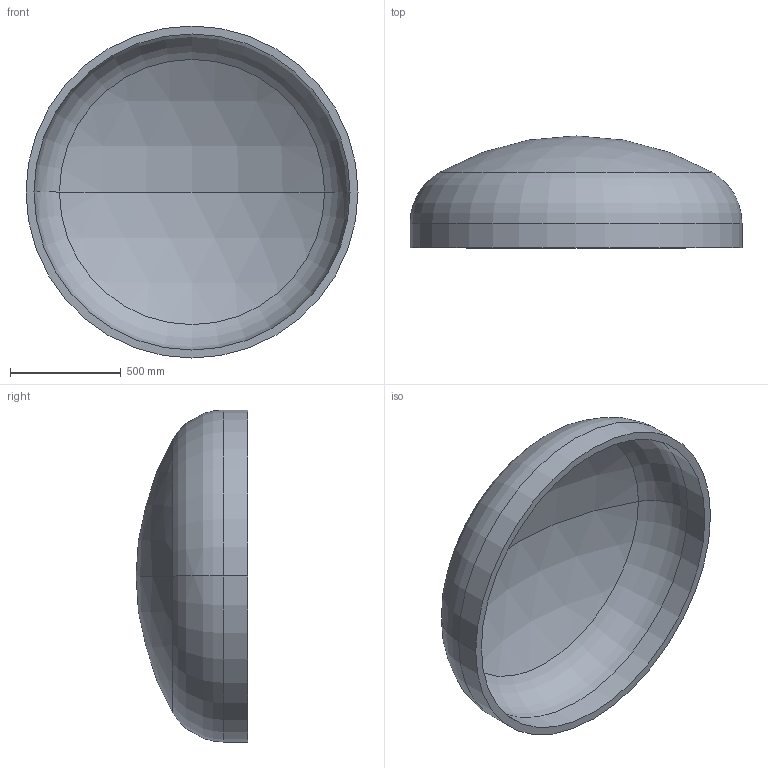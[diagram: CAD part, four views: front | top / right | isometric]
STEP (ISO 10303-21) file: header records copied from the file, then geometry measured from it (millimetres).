
FILE_DESCRIPTION (( 'STEP AP203' ), '1' );
FILE_NAME ('DIN 28013 Korbbogenform_-_Boden DIN 28013 - 1500 x 110 - I - s=36.step', '2016-07-01T10:44:18', ( '' ), ( '' ), 'SwSTEP 2.0', 'SolidWorks 2013', '' );
FILE_SCHEMA (( 'CONFIG_CONTROL_DESIGN' ));
Length unit declared in the file: millimetre
Products named in the file (1): DIN 28013 Korbbogenform_-_Boden DIN 28013 - 1500 x 110 - I - s=36
Bounding box: 1500 x 505.38 x 1500 mm (x, y, z)
Volume: 103516000.5 mm3; surface area: 5919176 mm2
Topology: 1 solids, 1 shells, 13 faces, 24 edges, 14 vertices
Faces by surface type: torus 4, cylinder 4, sphere 4, plane 1
Entity records: 407 total; most frequent: DIRECTION 72, CARTESIAN_POINT 52, ORIENTED_EDGE 48, AXIS2_PLACEMENT_3D 34, EDGE_CURVE 24, CIRCLE 20, EDGE_LOOP 14, VERTEX_POINT 14
